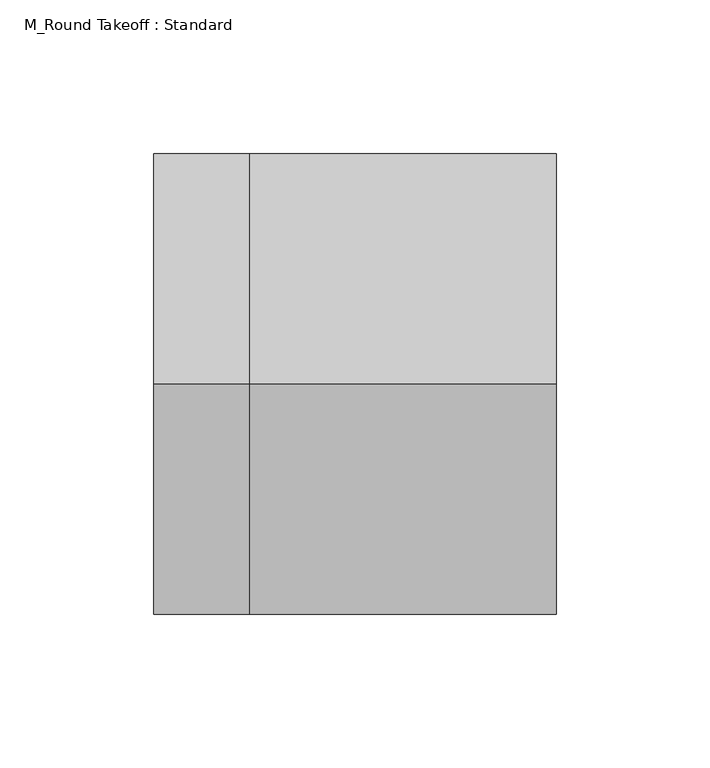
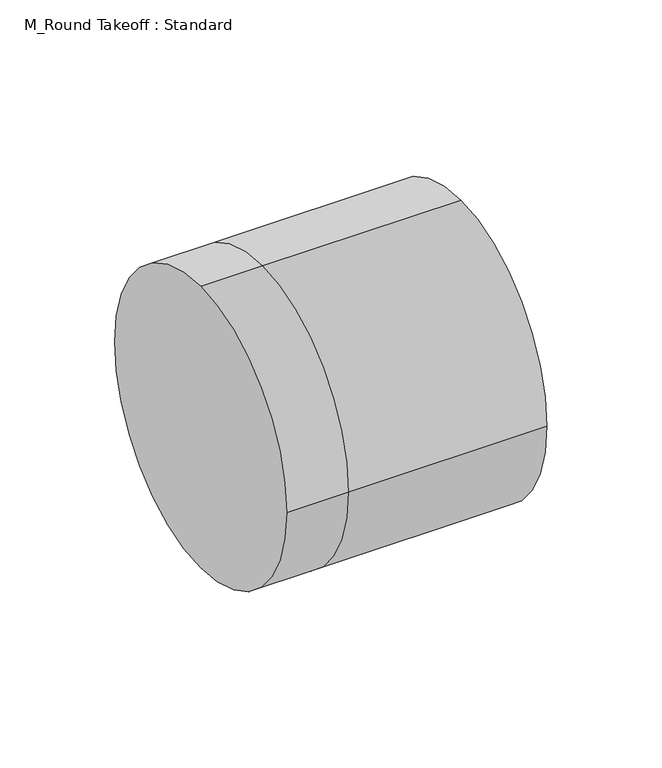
"""IFC4 building model written with IfcOpenShell, lengths in millimetres: duct fitting geometry, M_Round Takeoff : Standard."""

from ifc_helpers import new_model, si_unit, frame, origin, place, context, project, spatial, circle_curve, source, transform, mapped, element, save
from ifc_brep_helpers import plane_surface, cylinder_surface, advanced_brep


def m_round_takeoff_standard_b5c2ee18(model_context):
    return source(origin(), model_context, "Body", "AdvancedBrep", [
        advanced_brep(
        [(-31.096, 0.0, 75.0), (-31.096, 75.0, 0.0), (-31.096, 0.0, -75.0), (-31.096, -75.0, 0.0), (0.0, 0.0, 75.0), (0.0, 75.0, 0.0), (0.0, 0.0, -75.0), (0.0, -75.0, 0.0), (100.0, 0.0, 75.0), (100.0, -75.0, 0.0), (100.0, 0.0, -75.0), (100.0, 75.0, 0.0)],
        [
            (0, 1, circle_curve(frame((-31.096, 0.0, 0.0), z_axis=(-1.0, 0.0, 0.0), x_axis=(0.0, 1.0, 0.0)), 75.0)),
            (1, 2, circle_curve(frame((-31.096, 0.0, 0.0), z_axis=(-1.0, 0.0, 0.0), x_axis=(0.0, 1.0, 0.0)), 75.0)),
            (2, 3, circle_curve(frame((-31.096, 0.0, 0.0), z_axis=(-1.0, 0.0, 0.0), x_axis=(0.0, 1.0, 0.0)), 75.0)),
            (3, 0, circle_curve(frame((-31.096, 0.0, 0.0), z_axis=(-1.0, 0.0, 0.0), x_axis=(0.0, 1.0, 0.0)), 75.0)),
            (0, 4),
            (4, 5, circle_curve(frame((0.0, 0.0, 0.0), z_axis=(-1.0, 0.0, 0.0), x_axis=(0.0, 1.0, 0.0)), 75.0)),
            (5, 1),
            (5, 6, circle_curve(frame((0.0, 0.0, 0.0), z_axis=(-1.0, 0.0, 0.0), x_axis=(0.0, 1.0, 0.0)), 75.0)),
            (6, 2),
            (6, 7, circle_curve(frame((0.0, 0.0, 0.0), z_axis=(-1.0, 0.0, 0.0), x_axis=(0.0, 1.0, 0.0)), 75.0)),
            (7, 3),
            (7, 4, circle_curve(frame((0.0, 0.0, 0.0), z_axis=(-1.0, 0.0, 0.0), x_axis=(0.0, 1.0, 0.0)), 75.0)),
            (8, 9, circle_curve(frame((100.0, 0.0, 0.0), z_axis=(1.0, 0.0, 0.0), x_axis=(0.0, 1.0, 0.0)), 75.0)),
            (9, 10, circle_curve(frame((100.0, 0.0, 0.0), z_axis=(1.0, 0.0, 0.0), x_axis=(0.0, 1.0, 0.0)), 75.0)),
            (10, 11, circle_curve(frame((100.0, 0.0, 0.0), z_axis=(1.0, 0.0, 0.0), x_axis=(0.0, 1.0, 0.0)), 75.0)),
            (11, 8, circle_curve(frame((100.0, 0.0, 0.0), z_axis=(1.0, 0.0, 0.0), x_axis=(0.0, 1.0, 0.0)), 75.0)),
            (11, 5),
            (4, 8),
            (10, 6),
            (9, 7),
        ],
        [
            plane_surface(frame((-31.096, 0.0, 0.0), z_axis=(-1.0, 0.0, 0.0), x_axis=(0.0, 0.0, 1.0))),
            cylinder_surface(frame((-31.096, 0.0, 0.0), z_axis=(-1.0, 0.0, 0.0), x_axis=(0.0, 1.0, 0.0)), 75.0),
            plane_surface(frame((100.0, 0.0, 0.0), z_axis=(1.0, 0.0, 0.0), x_axis=(0.0, 0.0, 1.0))),
            cylinder_surface(frame((0.0, 0.0, 0.0), z_axis=(-1.0, 0.0, 0.0), x_axis=(0.0, 1.0, 0.0)), 75.0),
        ],
        [
            (0, [[1, 2, 3, 4]]),
            (1, [[-1, 5, 6, 7]]),
            (1, [[-2, -7, 8, 9]]),
            (1, [[-3, -9, 10, 11]]),
            (1, [[-4, -11, 12, -5]]),
            (2, [[13, 14, 15, 16]]),
            (3, [[-16, 17, -6, 18]]),
            (3, [[-15, 19, -8, -17]]),
            (3, [[-14, 20, -10, -19]]),
            (3, [[-13, -18, -12, -20]]),
        ],
    ),
        advanced_brep(
        [(100.0, 0.0, 75.0), (100.0, -75.0, 0.0), (100.0, 0.0, -75.0), (100.0, 75.0, 0.0), (0.0, 75.0, 0.0), (0.0, 0.0, 75.0), (0.0, 0.0, -75.0), (0.0, -75.0, 0.0), (-31.096, 0.0, 75.0), (-31.096, 75.0, 0.0), (-31.096, 0.0, -75.0), (-31.096, -75.0, 0.0)],
        [
            (0, 1, circle_curve(frame((100.0, 0.0, 0.0), z_axis=(1.0, 0.0, 0.0), x_axis=(0.0, 1.0, 0.0)), 75.0)),
            (1, 2, circle_curve(frame((100.0, 0.0, 0.0), z_axis=(1.0, 0.0, 0.0), x_axis=(0.0, 1.0, 0.0)), 75.0)),
            (2, 3, circle_curve(frame((100.0, 0.0, 0.0), z_axis=(1.0, 0.0, 0.0), x_axis=(0.0, 1.0, 0.0)), 75.0)),
            (3, 0, circle_curve(frame((100.0, 0.0, 0.0), z_axis=(1.0, 0.0, 0.0), x_axis=(0.0, 1.0, 0.0)), 75.0)),
            (3, 4),
            (4, 5, circle_curve(frame((0.0, 0.0, 0.0), z_axis=(1.0, 0.0, 0.0), x_axis=(0.0, 1.0, 0.0)), 75.0)),
            (5, 0),
            (2, 6),
            (6, 4, circle_curve(frame((0.0, 0.0, 0.0), z_axis=(1.0, 0.0, 0.0), x_axis=(0.0, 1.0, 0.0)), 75.0)),
            (1, 7),
            (7, 6, circle_curve(frame((0.0, 0.0, 0.0), z_axis=(1.0, 0.0, 0.0), x_axis=(0.0, 1.0, 0.0)), 75.0)),
            (5, 7, circle_curve(frame((0.0, 0.0, 0.0), z_axis=(1.0, 0.0, 0.0), x_axis=(0.0, 1.0, 0.0)), 75.0)),
            (8, 9, circle_curve(frame((-31.096, 0.0, 0.0), z_axis=(-1.0, 0.0, 0.0), x_axis=(0.0, 1.0, 0.0)), 75.0)),
            (9, 10, circle_curve(frame((-31.096, 0.0, 0.0), z_axis=(-1.0, 0.0, 0.0), x_axis=(0.0, 1.0, 0.0)), 75.0)),
            (10, 11, circle_curve(frame((-31.096, 0.0, 0.0), z_axis=(-1.0, 0.0, 0.0), x_axis=(0.0, 1.0, 0.0)), 75.0)),
            (11, 8, circle_curve(frame((-31.096, 0.0, 0.0), z_axis=(-1.0, 0.0, 0.0), x_axis=(0.0, 1.0, 0.0)), 75.0)),
            (8, 5),
            (4, 9),
            (6, 10),
            (7, 11),
        ],
        [
            plane_surface(frame((100.0, 0.0, 0.0), z_axis=(1.0, 0.0, 0.0), x_axis=(0.0, 0.0, 1.0))),
            cylinder_surface(frame((0.0, 0.0, 0.0), z_axis=(-1.0, 0.0, 0.0), x_axis=(0.0, 1.0, 0.0)), 75.0),
            plane_surface(frame((-31.096, 0.0, 0.0), z_axis=(-1.0, 0.0, 0.0), x_axis=(0.0, 0.0, 1.0))),
            cylinder_surface(frame((-31.096, 0.0, 0.0), z_axis=(-1.0, 0.0, 0.0), x_axis=(0.0, 1.0, 0.0)), 75.0),
        ],
        [
            (0, [[1, 2, 3, 4]]),
            (1, [[-4, 5, 6, 7]]),
            (1, [[-3, 8, 9, -5]]),
            (1, [[-2, 10, 11, -8]]),
            (1, [[-1, -7, 12, -10]]),
            (2, [[13, 14, 15, 16]]),
            (3, [[-13, 17, -6, 18]]),
            (3, [[-14, -18, -9, 19]]),
            (3, [[-15, -19, -11, 20]]),
            (3, [[-16, -20, -12, -17]]),
        ],
    ),
        advanced_brep(
        [(-31.096, 0.0, 75.0), (-31.096, 75.0, 0.0), (-31.096, 0.0, -75.0), (-31.096, -75.0, 0.0), (0.0, 0.0, 75.0), (0.0, 75.0, 0.0), (0.0, 0.0, -75.0), (0.0, -75.0, 0.0), (100.0, 0.0, 75.0), (100.0, -75.0, 0.0), (100.0, 0.0, -75.0), (100.0, 75.0, 0.0)],
        [
            (0, 1, circle_curve(frame((-31.096, 0.0, 0.0), z_axis=(-1.0, 0.0, 0.0), x_axis=(0.0, 1.0, 0.0)), 75.0)),
            (1, 2, circle_curve(frame((-31.096, 0.0, 0.0), z_axis=(-1.0, 0.0, 0.0), x_axis=(0.0, 1.0, 0.0)), 75.0)),
            (2, 3, circle_curve(frame((-31.096, 0.0, 0.0), z_axis=(-1.0, 0.0, 0.0), x_axis=(0.0, 1.0, 0.0)), 75.0)),
            (3, 0, circle_curve(frame((-31.096, 0.0, 0.0), z_axis=(-1.0, 0.0, 0.0), x_axis=(0.0, 1.0, 0.0)), 75.0)),
            (0, 4),
            (4, 5, circle_curve(frame((0.0, 0.0, 0.0), z_axis=(-1.0, 0.0, 0.0), x_axis=(0.0, 1.0, 0.0)), 75.0)),
            (5, 1),
            (5, 6, circle_curve(frame((0.0, 0.0, 0.0), z_axis=(-1.0, 0.0, 0.0), x_axis=(0.0, 1.0, 0.0)), 75.0)),
            (6, 2),
            (6, 7, circle_curve(frame((0.0, 0.0, 0.0), z_axis=(-1.0, 0.0, 0.0), x_axis=(0.0, 1.0, 0.0)), 75.0)),
            (7, 3),
            (7, 4, circle_curve(frame((0.0, 0.0, 0.0), z_axis=(-1.0, 0.0, 0.0), x_axis=(0.0, 1.0, 0.0)), 75.0)),
            (8, 9, circle_curve(frame((100.0, 0.0, 0.0), z_axis=(1.0, 0.0, 0.0), x_axis=(0.0, 1.0, 0.0)), 75.0)),
            (9, 10, circle_curve(frame((100.0, 0.0, 0.0), z_axis=(1.0, 0.0, 0.0), x_axis=(0.0, 1.0, 0.0)), 75.0)),
            (10, 11, circle_curve(frame((100.0, 0.0, 0.0), z_axis=(1.0, 0.0, 0.0), x_axis=(0.0, 1.0, 0.0)), 75.0)),
            (11, 8, circle_curve(frame((100.0, 0.0, 0.0), z_axis=(1.0, 0.0, 0.0), x_axis=(0.0, 1.0, 0.0)), 75.0)),
            (11, 5),
            (4, 8),
            (10, 6),
            (9, 7),
        ],
        [
            plane_surface(frame((-31.096, 0.0, 0.0), z_axis=(-1.0, 0.0, 0.0), x_axis=(0.0, 0.0, 1.0))),
            cylinder_surface(frame((-31.096, 0.0, 0.0), z_axis=(-1.0, 0.0, 0.0), x_axis=(0.0, 1.0, 0.0)), 75.0),
            plane_surface(frame((100.0, 0.0, 0.0), z_axis=(1.0, 0.0, 0.0), x_axis=(0.0, 0.0, 1.0))),
            cylinder_surface(frame((0.0, 0.0, 0.0), z_axis=(-1.0, 0.0, 0.0), x_axis=(0.0, 1.0, 0.0)), 75.0),
        ],
        [
            (0, [[1, 2, 3, 4]]),
            (1, [[-1, 5, 6, 7]]),
            (1, [[-2, -7, 8, 9]]),
            (1, [[-3, -9, 10, 11]]),
            (1, [[-4, -11, 12, -5]]),
            (2, [[13, 14, 15, 16]]),
            (3, [[-16, 17, -6, 18]]),
            (3, [[-15, 19, -8, -17]]),
            (3, [[-14, 20, -10, -19]]),
            (3, [[-13, -18, -12, -20]]),
        ],
    ),
    ])


if __name__ == "__main__":
    model = new_model("IFC4")
    model_context = context("Model", 3, world=origin())
    ifc_project = project(units=[si_unit("LENGTHUNIT", "METRE", prefix="MILLI")], contexts=[model_context])
    site = spatial("IfcSite", under=ifc_project)
    building = spatial("IfcBuilding", under=site)
    placement = place(None, origin())
    m_round_takeoff_standard_shape = m_round_takeoff_standard_b5c2ee18(model_context)
    element("IfcDuctFitting", 1, ObjectType="M_Round Takeoff : Standard", at=placement, inside=building, context=model_context, shape_type="MappedRepresentation", body=[
        mapped(m_round_takeoff_standard_shape, transform((0.0, 0.0, 0.0), x_axis=(1.0, 0.0, 0.0), y_axis=(0.0, 1.0, 0.0), z_axis=(0.0, 0.0, 1.0))),
    ])
    save(model, "model.ifc")
